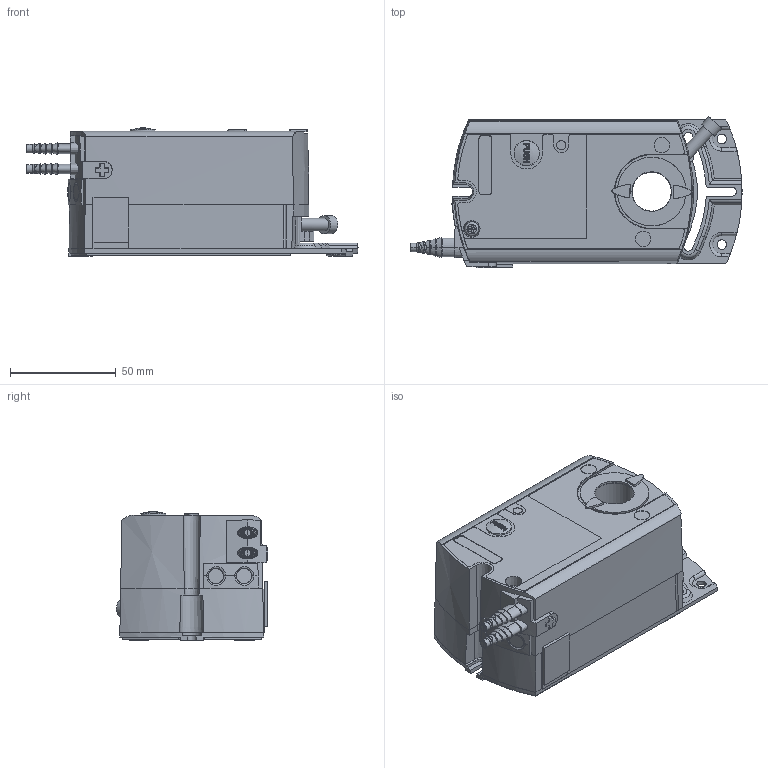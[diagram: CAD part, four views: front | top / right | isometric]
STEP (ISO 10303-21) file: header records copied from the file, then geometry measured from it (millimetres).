
FILE_DESCRIPTION(/* description */ (''),/* implementation_level */ '2;1');
FILE_NAME(/* name */ 'GDB181KNX.stp',/* time_stamp */ '2014-09-16T12:49:18+02:00',/* author */ (''),/* organization */ (''),/* preprocessor_version */ 'ST-DEVELOPER v15',/* originating_system */ 'SIEMENS PLM Software NX 8.5',/* authorisation */ '');
FILE_SCHEMA (('AUTOMOTIVE_DESIGN { 1 0 10303 214 3 1 1 1 }'));
Length unit declared in the file: millimetre
Products named in the file (1): 8000079170_01
Bounding box: 157.15 x 71.64 x 60.8 mm (x, y, z)
Volume: 397083 mm3; surface area: 47365.3 mm2
Topology: 1 solids, 5 shells, 899 faces, 2281 edges, 1388 vertices
Faces by surface type: plane 297, bspline 197, cylinder 192, torus 84, cone 56, sphere 43, extrusion 30
Full cylindrical faces by diameter (mm): 1 x1, 4.4 x1, 4.5 x2, 6 x1, 7.2 x1, 7.3 x1, 7.4 x1, 7.9 x1, 8.5 x1, 18.5 x1, 21.57 x1
Entity records: 40802 total; most frequent: CARTESIAN_POINT 14523, ORIENTED_EDGE 4432, DIRECTION 3900, EDGE_CURVE 2216, AXIS2_PLACEMENT_3D 1560, VERTEX_POINT 1367, EDGE_LOOP 945, ADVANCED_FACE 897
